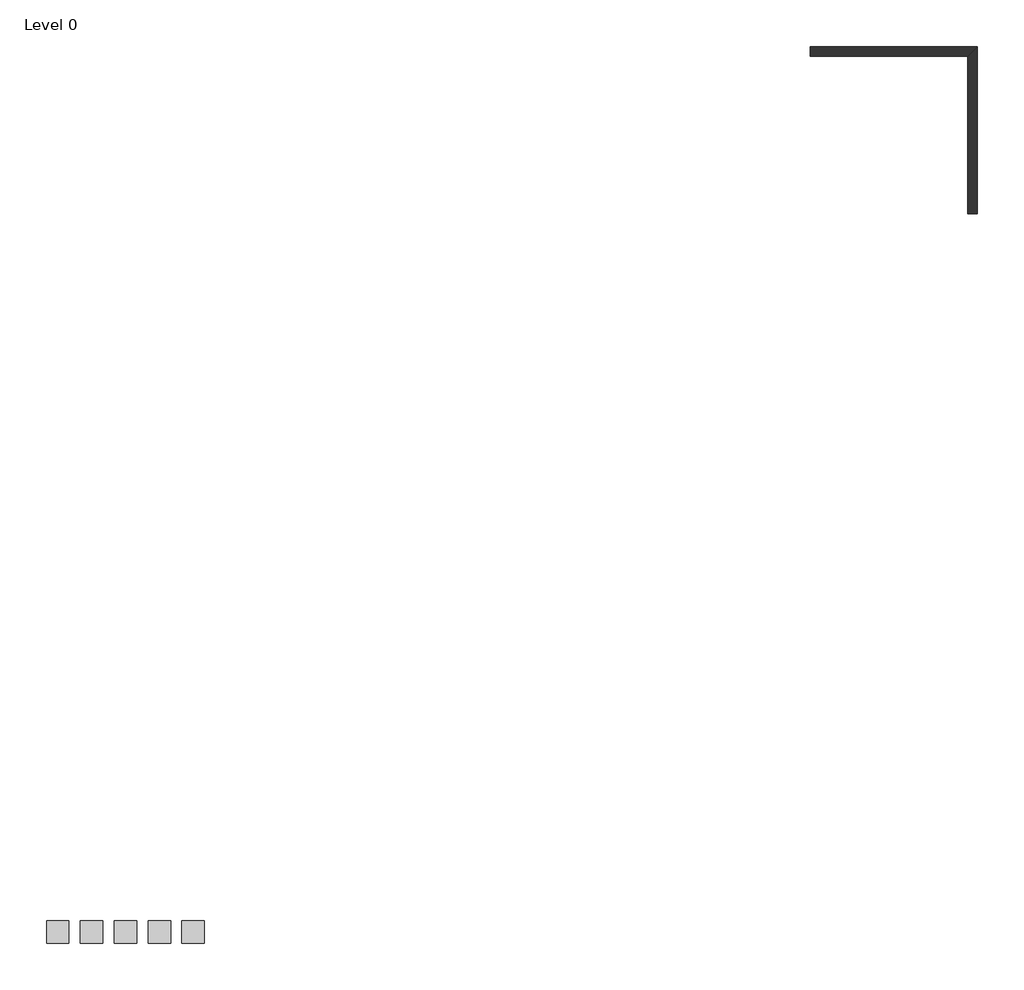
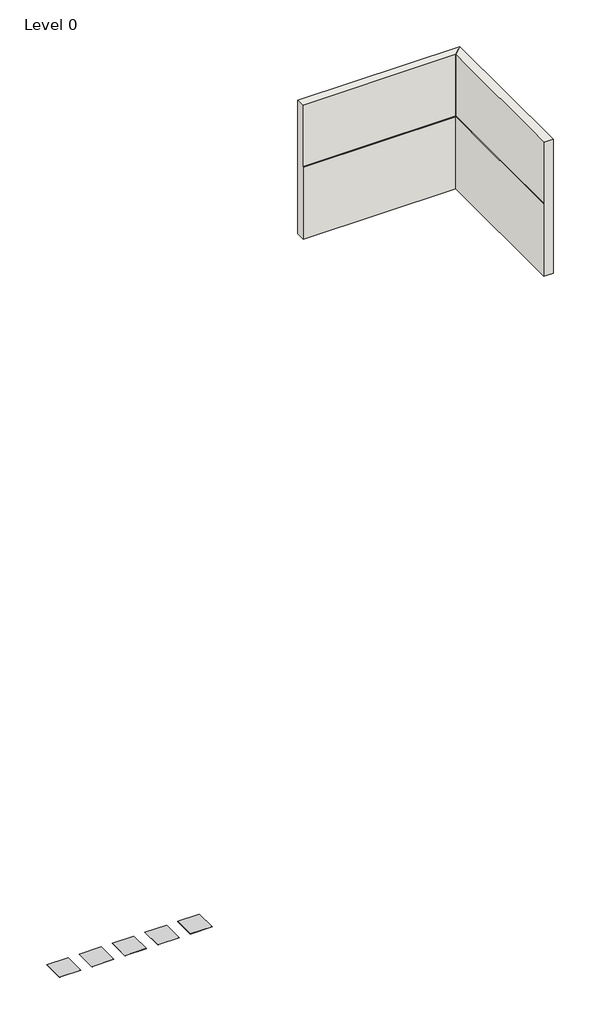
# One storey: 5 proxies, 2 walls.
"""IFC4 building model written with IfcOpenShell, lengths in millimetres."""

from ifc_helpers import new_model, si_unit, origin, place, context, project, spatial, faceted_brep, transform, mapped, element, save
from components import generic_models_34079f03

model = new_model("IFC4")

# Units and contexts
model_context = context("Model", 3, world=origin())
ifc_project = project(units=[si_unit("LENGTHUNIT", "METRE", prefix="MILLI")], contexts=[model_context])

# Site, building, storey
site = spatial("IfcSite", under=ifc_project)
building = spatial("IfcBuilding", under=site)
storey = spatial("IfcBuildingStorey", under=building, Name="Level 0", Elevation=0.0)

# Proxies
placement = place(None, origin())
generic_models_shape = generic_models_34079f03(model_context)
element("IfcBuildingElementProxy", 1, Name="Loggia_Placeholder : Loggia Placeholder", ObjectType="Loggia_Placeholder : Loggia Placeholder", at=placement, inside=storey, context=model_context, shape_type="MappedRepresentation", body=[
    mapped(generic_models_shape, transform((-9250.6687249, -13916.7775724, 0.0), x_axis=(1.0, 0.0, 0.0), y_axis=(0.0, 1.0, 0.0), z_axis=(0.0, 0.0, 1.0))),
])
element("IfcBuildingElementProxy", 2, Name="Loggia_Placeholder : Loggia Placeholder", ObjectType="Loggia_Placeholder : Loggia Placeholder", at=placement, inside=storey, context=model_context, shape_type="MappedRepresentation", body=[
    mapped(generic_models_shape, transform((-8647.4687249, -13916.7775724, 0.0), x_axis=(1.0, 0.0, 0.0), y_axis=(0.0, 1.0, 0.0), z_axis=(0.0, 0.0, 1.0))),
])
element("IfcBuildingElementProxy", 3, Name="Loggia_Placeholder : Loggia Placeholder", ObjectType="Loggia_Placeholder : Loggia Placeholder", at=placement, inside=storey, context=model_context, shape_type="MappedRepresentation", body=[
    mapped(generic_models_shape, transform((-8044.2687249, -13916.7775724, 0.0), x_axis=(1.0, 0.0, 0.0), y_axis=(0.0, 1.0, 0.0), z_axis=(0.0, 0.0, 1.0))),
])
element("IfcBuildingElementProxy", 4, Name="Loggia_Placeholder : Loggia Placeholder", ObjectType="Loggia_Placeholder : Loggia Placeholder", at=placement, inside=storey, context=model_context, shape_type="MappedRepresentation", body=[
    mapped(generic_models_shape, transform((-7441.0687249, -13916.7775724, 0.0), x_axis=(1.0, 0.0, 0.0), y_axis=(0.0, 1.0, 0.0), z_axis=(0.0, 0.0, 1.0))),
])
element("IfcBuildingElementProxy", 5, Name="Loggia_Placeholder : Loggia Placeholder", ObjectType="Loggia_Placeholder : Loggia Placeholder", at=placement, inside=storey, context=model_context, shape_type="MappedRepresentation", body=[
    mapped(generic_models_shape, transform((-6837.8687249, -13916.7775724, 0.0), x_axis=(1.0, 0.0, 0.0), y_axis=(0.0, 1.0, 0.0), z_axis=(0.0, 0.0, 1.0))),
])

# Walls
element("IfcWall", 6, ObjectType="Wall_Generic_Loggia-Showcase", at=placement, inside=storey, context=model_context, shape_type="Brep", body=[
    faceted_brep([(4160.5903752, 1688.5585818, 0.0), (6964.5903752, 1688.5585818, 0.0), (6964.5903752, 1688.5585818, 1406.4126577), (4160.5903752, 1688.5585818, 1406.4126577), (4160.5903752, 1864.5585818, 0.0), (4160.5903752, 1864.5585818, 2600.0), (7140.5903752, 1864.5585818, 2600.0), (7140.5903752, 1864.5585818, 0.0), (4160.5903752, 1704.5585818, 1406.4126577), (4160.5903752, 1704.5585818, 2600.0), (6980.5903752, 1704.5585818, 2600.0), (6980.5903752, 1704.5585818, 1406.4126577)], [[[0, 1, 2, 3]], [[4, 5, 6, 7]], [[1, 0, 4, 7]], [[0, 3, 8, 9, 5, 4]], [[10, 6, 5, 9]], [[8, 11, 10, 9]], [[3, 2, 11, 8]], [[2, 1, 7, 6, 10, 11]]]),
])
element("IfcWall", 7, ObjectType="Wall_Generic_Loggia-Showcase", at=placement, inside=storey, context=model_context, shape_type="Brep", body=[
    faceted_brep([(6964.5903752, 1688.5585818, 0.0), (6964.5903752, -1115.4414182, 0.0), (6964.5903752, -1115.4414182, 1406.4126577), (6964.5903752, 1688.5585818, 1406.4126577), (7140.5903752, 1864.5585818, 0.0), (7140.5903752, 1864.5585818, 2600.0), (7140.5903752, -1115.4414182, 2600.0), (7140.5903752, -1115.4414182, 0.0), (6980.5903752, -1115.4414182, 2600.0), (6980.5903752, -1115.4414182, 1406.4126577), (6980.5903752, 1704.5585818, 2600.0), (6980.5903752, 1704.5585818, 1406.4126577)], [[[0, 1, 2, 3]], [[4, 5, 6, 7]], [[1, 0, 4, 7]], [[2, 1, 7, 6, 8, 9]], [[8, 6, 5, 10]], [[11, 9, 8, 10]], [[3, 2, 9, 11]], [[0, 3, 11, 10, 5, 4]]]),
])

save(model, "model.ifc")
